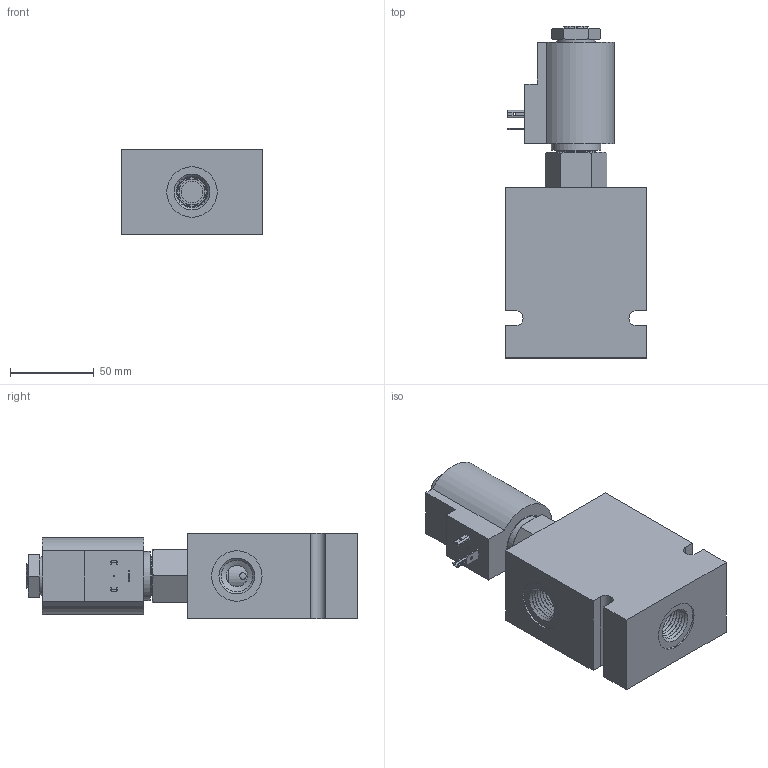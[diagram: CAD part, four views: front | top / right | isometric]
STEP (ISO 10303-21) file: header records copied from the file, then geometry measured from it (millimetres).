
FILE_DESCRIPTION( ( 'Unknown' ), '1' );
FILE_NAME( 'G:/Graphic Design/Graphic Design 2/Data Sheets/SOLENOID OPERATED VALVES/4_STEP/3W2P Spool/HU-S3E00-C3.stp', 'Unknown', ( 'Unknown' ), ( 'Unknown' ), 'PSStep 15.0.49', 'Unknown', ' ' );
FILE_SCHEMA( ( 'AUTOMOTIVE_DESIGN { 1 0 10303 214 1 1 1 1 }' ) );
Length unit declared in the file: millimetre
Products named in the file (23): D-THC12; THC_Body; PT-EL-HC-TerminalConnectors; PT-OR-2-116-N70A; PT-OR-2-119-N70A; T Coil; hus3e00; HUS3E00-3D Full1; HUS3E00-3D Full2; HUS3E00-3D Full3; HUS3E00-3D Full4; HUS3E00-3D Full5; HUS3E00-3D Full6; HUS3E00-3D Full7; HUS3E00-3D Full8; HUS3E00-3D Full9; HUS3E00-3D Full10; Assem1; B-D-HU-C3A; delta_5_8_nut1
Assembly tree (22 placements, depth 4):
  Assem1
    B-D-HU-C3A
    delta_5_8_nut1
    hus3e00
      HUS3E00-3D Full1
      HUS3E00-3D Full2
      HUS3E00-3D Full3
      HUS3E00-3D Full4
      HUS3E00-3D Full5
      HUS3E00-3D Full6
      HUS3E00-3D Full7
      HUS3E00-3D Full8
      HUS3E00-3D Full9
      HUS3E00-3D Full10
    T Coil
      D-THC12
        THC_Body
        PT-EL-HC-TerminalConnectors
        PT-EL-HC-TerminalConnectors
        PT-EL-HC-TerminalConnectors
        PT-EL-HC-TerminalConnectors
        PT-OR-2-116-N70A
        PT-OR-2-119-N70A
Bounding box: 84 x 197.6 x 50.8 mm (x, y, z)
Volume: 528985.5 mm3; surface area: 91556.8 mm2
Topology: 19 solids, 19 shells, 337 faces, 716 edges, 445 vertices
Faces by surface type: plane 114, cylinder 107, cone 105, torus 11
Full cylindrical faces by diameter (mm): 1 x2, 1.5 x3, 3.81 x16, 12.69 x1, 12.7 x2, 13.589 x1, 14.348 x1, 14.935 x1, 15.443 x2, 16.866 x1, 16.98 x1, 17.704 x1, 17.755 x2, 18 x1, 18.796 x1, 18.8 x3, 18.974 x1, 19.025 x2, 19.25 x1, 19.304 x1, 19.355 x2, 20.015 x1, 22.073 x2, 22.149 x2, 22.276 x1, 22.8 x1, 22.987 x1, 23.673 x2, 23.724 x2, 23.849 x2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
Entity records: 12892 total; most frequent: CARTESIAN_POINT 3465, DIRECTION 1382, ORIENTED_EDGE 1006, AXIS2_PLACEMENT_3D 615, EDGE_LOOP 562, EDGE_CURVE 503, FACE_OUTER_BOUND 413, VERTEX_POINT 408
